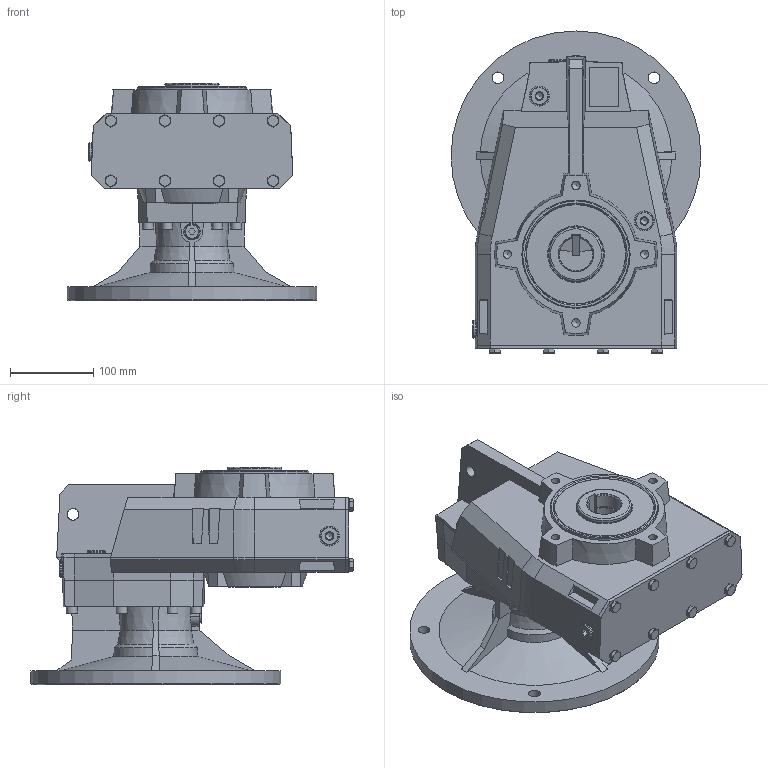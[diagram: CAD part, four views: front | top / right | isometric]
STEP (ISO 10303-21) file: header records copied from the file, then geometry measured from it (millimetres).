
FILE_DESCRIPTION( ( 'Unknown' ), '1' );
FILE_NAME( 'E:/services/configuratordownloads/customers/HYDROMEC/FLACH/download/35792AE6EFE3D976220D6F97331D519/STEP/35792AE6EFE3D976220D6F97331D519.3d.stp', 'Unknown', ( 'Unknown' ), ( 'Unknown' ), 'PSStep 10.1', 'Unknown', ' ' );
FILE_SCHEMA( ( 'AUTOMOTIVE_DESIGN { 1 0 10303 214 1 1 1 1 }' ) );
Length unit declared in the file: millimetre
Products named in the file (1): F708800_ST
Bounding box: 300 x 387 x 261 mm (x, y, z)
Volume: 8312310.9 mm3; surface area: 551867.3 mm2
Topology: 1 solids, 34 shells, 878 faces, 2046 edges, 1306 vertices
Faces by surface type: plane 502, cone 200, cylinder 146, torus 30
Full cylindrical faces by diameter (mm): 6 x2, 6.647 x40, 8 x8, 8.5 x4, 9 x16, 10.106 x8, 11.445 x1, 11.6 x8, 13 x8, 14 x5, 14.3 x4, 14.95 x8, 17 x4, 18 x1, 19 x1, 20 x1, 22 x8, 24 x4, 65 x1, 86.798 x1, 130 x1, 230 x1, 300 x1
Entity records: 29971 total; most frequent: CARTESIAN_POINT 4732, DIRECTION 3703, ORIENTED_EDGE 3324, EDGE_CURVE 1662, AXIS2_PLACEMENT_3D 1432, EDGE_LOOP 1241, VERTEX_POINT 1209, FACE_OUTER_BOUND 1044
